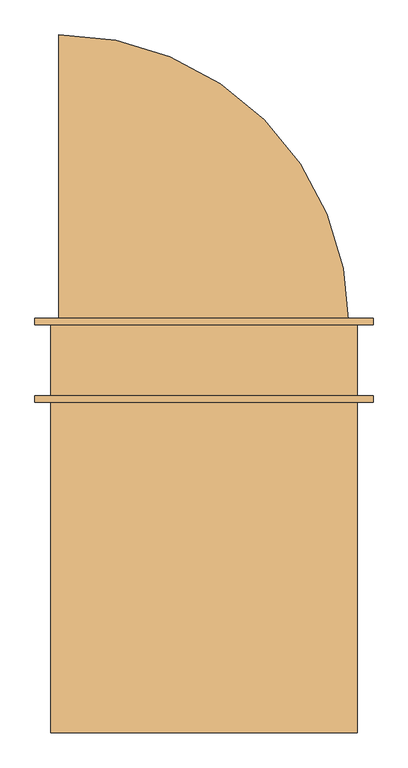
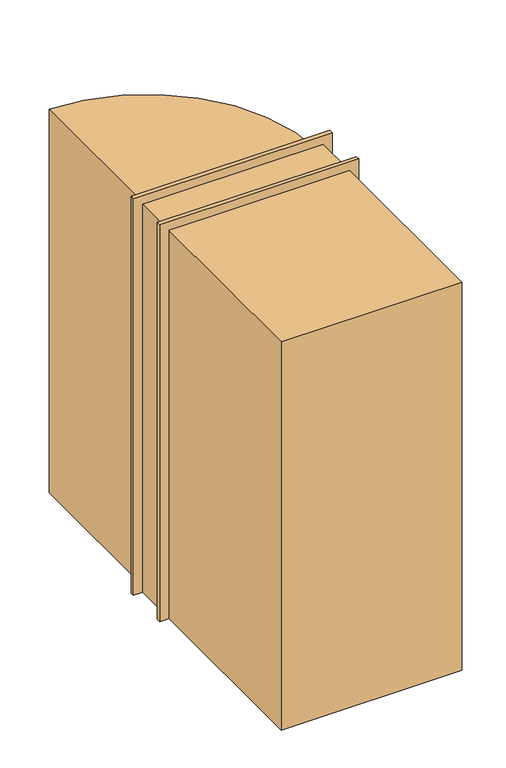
"""IFC4 building model written with IfcOpenShell, lengths in millimetres: door geometry, Дверь_Деревянная_Внутренняя_Однопольная_ГОСТ_475-2016 : 0910 х 2070(h)_Пр_с Порогом."""

from ifc_helpers import new_model, si_unit, point, frame, frame_2d, origin, origin_with_axes, place, context, project, spatial, polyline, circle_curve, trimmed, segment, composite_curve, outline, extrude, faceted_brep, source, transform, mapped, element, save
from ifc_brep_helpers import plane_surface, cylinder_surface, revolved_surface, advanced_brep


def door_42d30af5(model_context):
    return source(origin(), model_context, "Body", "SolidModel", [
        extrude(outline(composite_curve([segment(trimmed(circle_curve(frame_2d((-430.0, 101.825)), 860.0), [point((-430.0, 961.825))], [point((430.0, 101.825))], False, "CARTESIAN"), True, "CONTINUOUS"), segment(polyline([(430.0, 101.825), (-430.0, 101.825), (-430.0, 961.825)]), True, "CONTINUOUS")], self_intersect=False)), origin_with_axes(), (0.0, 0.0, 1.0), 2045.0),
        extrude(outline(polyline([(-455.0, -1108.175), (-455.0, -108.175), (455.0, -108.175), (455.0, -1108.175), (-455.0, -1108.175)])), origin_with_axes(), (0.0, 0.0, 1.0), 2070.0),
        advanced_brep(
        [(365.0, 60.825, 914.4), (375.0, 60.825, 914.4), (355.0, 60.825, 914.4), (344.5241324, 11.825, 914.4), (385.4758676, 11.825, 914.4), (365.0, 11.825, 914.4), (340.0, 13.6528681, 914.4), (390.0, 13.6528681, 914.4), (340.0, 17.1165463, 914.4), (390.0, 17.1165463, 914.4), (346.363764, 41.825, 914.4), (383.636236, 41.825, 914.4), (355.0, 41.825, 914.4), (375.0, 41.825, 914.4)],
        [
            (0, 1),
            (1, 2, circle_curve(frame((365.0, 60.825, 914.4), z_axis=(0.0, 1.0, 0.0), x_axis=(1.0, 0.0, 0.0)), 10.0)),
            (2, 0),
            (2, 1, circle_curve(frame((365.0, 60.825, 914.4), z_axis=(0.0, 1.0, 0.0), x_axis=(1.0, 0.0, 0.0)), 10.0)),
            (3, 4, circle_curve(frame((365.0, 11.825, 914.4), z_axis=(0.0, -1.0, 0.0), x_axis=(1.0, 0.0, 0.0)), 20.4758676)),
            (4, 5),
            (5, 3),
            (4, 3, circle_curve(frame((365.0, 11.825, 914.4), z_axis=(0.0, -1.0, 0.0), x_axis=(1.0, 0.0, 0.0)), 20.4758676)),
            (6, 7, circle_curve(frame((365.0, 13.6528681, 914.4), z_axis=(0.0, -1.0, 0.0), x_axis=(1.0, 0.0, 0.0)), 25.0)),
            (7, 4),
            (3, 6),
            (7, 6, circle_curve(frame((365.0, 13.6528681, 914.4), z_axis=(0.0, -1.0, 0.0), x_axis=(1.0, 0.0, 0.0)), 25.0)),
            (8, 9, circle_curve(frame((365.0, 17.1165463, 914.4), z_axis=(0.0, -1.0, 0.0), x_axis=(1.0, 0.0, 0.0)), 25.0)),
            (9, 7),
            (6, 8),
            (9, 8, circle_curve(frame((365.0, 17.1165463, 914.4), z_axis=(0.0, -1.0, 0.0), x_axis=(1.0, 0.0, 0.0)), 25.0)),
            (10, 11, circle_curve(frame((365.0, 41.825, 914.4), z_axis=(0.0, -1.0, 0.0), x_axis=(1.0, 0.0, 0.0)), 18.636236)),
            (11, 9),
            (8, 10),
            (11, 10, circle_curve(frame((365.0, 41.825, 914.4), z_axis=(0.0, -1.0, 0.0), x_axis=(1.0, 0.0, 0.0)), 18.636236)),
            (12, 13, circle_curve(frame((365.0, 41.825, 914.4), z_axis=(0.0, -1.0, 0.0), x_axis=(1.0, 0.0, 0.0)), 10.0)),
            (13, 11),
            (10, 12),
            (13, 12, circle_curve(frame((365.0, 41.825, 914.4), z_axis=(0.0, -1.0, 0.0), x_axis=(1.0, 0.0, 0.0)), 10.0)),
            (1, 13),
            (12, 2),
        ],
        [
            plane_surface(frame((365.0, 60.825, 914.4), z_axis=(0.0, 1.0, 0.0), x_axis=(1.0, 0.0, 0.0))),
            plane_surface(frame((365.0, 11.825, 914.4), z_axis=(0.0, -1.0, 0.0), x_axis=(1.0, 0.0, 0.0))),
            revolved_surface(polyline([(385.4758676, 11.825, 914.4), (390.0, 13.6528681, 914.4)]), (365.0, 60.825, 914.4), (0.0, 1.0, 0.0)),
            cylinder_surface(frame((365.0, 60.825, 914.4), z_axis=(0.0, 1.0, 0.0), x_axis=(1.0, 0.0, 0.0)), 25.0),
            revolved_surface(polyline([(390.0, 17.1165463, 914.4), (383.636236, 41.825, 914.4)]), (365.0, 60.825, 914.4), (0.0, 1.0, 0.0)),
            plane_surface(frame((365.0, 41.825, 914.4), z_axis=(0.0, 1.0, 0.0), x_axis=(1.0, 0.0, 0.0))),
            cylinder_surface(frame((365.0, 60.825, 914.4), z_axis=(0.0, 1.0, 0.0), x_axis=(1.0, 0.0, 0.0)), 10.0),
        ],
        [
            (0, [[1, 2, 3]]),
            (0, [[-3, 4, -1]]),
            (1, [[5, 6, 7]]),
            (1, [[8, -7, -6]]),
            (2, [[9, 10, -5, 11]]),
            (2, [[12, -11, -8, -10]]),
            (3, [[13, 14, -9, 15]]),
            (3, [[16, -15, -12, -14]]),
            (4, [[17, 18, -13, 19]]),
            (4, [[20, -19, -16, -18]]),
            (5, [[21, 22, -17, 23]]),
            (5, [[24, -23, -20, -22]]),
            (6, [[-2, 25, -21, 26]]),
            (6, [[-4, -26, -24, -25]]),
        ],
    ),
        extrude(outline(composite_curve([segment(trimmed(circle_curve(frame_2d((914.4, 365.0)), 30.0), [point((914.4, 395.0))], [point((914.4, 335.0))], False, "CARTESIAN"), True, "CONTINUOUS"), segment(trimmed(circle_curve(frame_2d((914.4, 365.0)), 30.0), [point((914.4, 335.0))], [point((914.4, 395.0))], False, "CARTESIAN"), True, "CONTINUOUS")], self_intersect=False)), frame((0.0, 60.825, 0.0), z_axis=(0.0, 1.0, 0.0), x_axis=(0.0, 0.0, 1.0)), (0.0, 0.0, 1.0), 6.0),
        advanced_brep(
        [(365.0, 107.825, 914.4), (355.0, 107.825, 914.4), (375.0, 107.825, 914.4), (344.5241324, 156.825, 914.4), (365.0, 156.825, 914.4), (385.4758676, 156.825, 914.4), (340.0, 154.9971319, 914.4), (390.0, 154.9971319, 914.4), (340.0, 151.5334537, 914.4), (390.0, 151.5334537, 914.4), (346.363764, 126.825, 914.4), (383.636236, 126.825, 914.4), (355.0, 126.825, 914.4), (375.0, 126.825, 914.4)],
        [
            (0, 1),
            (1, 2, circle_curve(frame((365.0, 107.825, 914.4), z_axis=(0.0, -1.0, 0.0), x_axis=(1.0, 0.0, 0.0)), 10.0)),
            (2, 0),
            (2, 1, circle_curve(frame((365.0, 107.825, 914.4), z_axis=(0.0, -1.0, 0.0), x_axis=(1.0, 0.0, 0.0)), 10.0)),
            (3, 4),
            (4, 5),
            (5, 3, circle_curve(frame((365.0, 156.825, 914.4), z_axis=(0.0, 1.0, 0.0), x_axis=(1.0, 0.0, 0.0)), 20.4758676)),
            (3, 5, circle_curve(frame((365.0, 156.825, 914.4), z_axis=(0.0, 1.0, 0.0), x_axis=(1.0, 0.0, 0.0)), 20.4758676)),
            (6, 3),
            (5, 7),
            (7, 6, circle_curve(frame((365.0, 154.9971319, 914.4), z_axis=(0.0, 1.0, 0.0), x_axis=(1.0, 0.0, 0.0)), 25.0)),
            (6, 7, circle_curve(frame((365.0, 154.9971319, 914.4), z_axis=(0.0, 1.0, 0.0), x_axis=(1.0, 0.0, 0.0)), 25.0)),
            (8, 6),
            (7, 9),
            (9, 8, circle_curve(frame((365.0, 151.5334537, 914.4), z_axis=(0.0, 1.0, 0.0), x_axis=(1.0, 0.0, 0.0)), 25.0)),
            (8, 9, circle_curve(frame((365.0, 151.5334537, 914.4), z_axis=(0.0, 1.0, 0.0), x_axis=(1.0, 0.0, 0.0)), 25.0)),
            (10, 8),
            (9, 11),
            (11, 10, circle_curve(frame((365.0, 126.825, 914.4), z_axis=(0.0, 1.0, 0.0), x_axis=(1.0, 0.0, 0.0)), 18.636236)),
            (10, 11, circle_curve(frame((365.0, 126.825, 914.4), z_axis=(0.0, 1.0, 0.0), x_axis=(1.0, 0.0, 0.0)), 18.636236)),
            (12, 10),
            (11, 13),
            (13, 12, circle_curve(frame((365.0, 126.825, 914.4), z_axis=(0.0, 1.0, 0.0), x_axis=(1.0, 0.0, 0.0)), 10.0)),
            (12, 13, circle_curve(frame((365.0, 126.825, 914.4), z_axis=(0.0, 1.0, 0.0), x_axis=(1.0, 0.0, 0.0)), 10.0)),
            (1, 12),
            (13, 2),
        ],
        [
            plane_surface(frame((365.0, 107.825, 914.4), z_axis=(0.0, -1.0, 0.0), x_axis=(1.0, 0.0, 0.0))),
            plane_surface(frame((365.0, 156.825, 914.4), z_axis=(0.0, 1.0, 0.0), x_axis=(1.0, 0.0, 0.0))),
            revolved_surface(polyline([(385.4758676, 156.825, 914.4), (390.0, 154.9971319, 914.4)]), (365.0, 107.825, 914.4), (0.0, -1.0, 0.0)),
            cylinder_surface(frame((365.0, 107.825, 914.4), z_axis=(0.0, -1.0, 0.0), x_axis=(1.0, 0.0, 0.0)), 25.0),
            revolved_surface(polyline([(390.0, 151.5334537, 914.4), (383.636236, 126.825, 914.4)]), (365.0, 107.825, 914.4), (0.0, -1.0, 0.0)),
            plane_surface(frame((365.0, 126.825, 914.4), z_axis=(0.0, -1.0, 0.0), x_axis=(1.0, 0.0, 0.0))),
            cylinder_surface(frame((365.0, 107.825, 914.4), z_axis=(0.0, -1.0, 0.0), x_axis=(1.0, 0.0, 0.0)), 10.0),
        ],
        [
            (0, [[1, 2, 3]]),
            (0, [[-3, 4, -1]]),
            (1, [[5, 6, 7]]),
            (1, [[-6, -5, 8]]),
            (2, [[9, -7, 10, 11]]),
            (2, [[-10, -8, -9, 12]]),
            (3, [[13, -11, 14, 15]]),
            (3, [[-14, -12, -13, 16]]),
            (4, [[17, -15, 18, 19]]),
            (4, [[-18, -16, -17, 20]]),
            (5, [[21, -19, 22, 23]]),
            (5, [[-22, -20, -21, 24]]),
            (6, [[25, -23, 26, -2]]),
            (6, [[-26, -24, -25, -4]]),
        ],
    ),
        extrude(outline(composite_curve([segment(trimmed(circle_curve(frame_2d((914.4, 365.0)), 30.0), [point((914.4, 395.0))], [point((914.4, 335.0))], False, "CARTESIAN"), True, "CONTINUOUS"), segment(trimmed(circle_curve(frame_2d((914.4, 365.0)), 30.0), [point((914.4, 335.0))], [point((914.4, 395.0))], False, "CARTESIAN"), True, "CONTINUOUS")], self_intersect=False)), frame((0.0, 101.825, 0.0), z_axis=(0.0, 1.0, 0.0), x_axis=(0.0, 0.0, 1.0)), (0.0, 0.0, 1.0), 6.0),
        extrude(outline(polyline([(310.0, 78.4916667), (-310.0, 78.4916667), (-310.0, 90.1583333), (310.0, 90.1583333), (310.0, 78.4916667)])), frame((0.0, 0.0, 230.0), z_axis=(0.0, 0.0, 1.0), x_axis=(1.0, 0.0, 0.0)), (0.0, 0.0, 1.0), 1695.0),
        extrude(outline(polyline([(2045.0, -430.0), (25.0, -430.0), (25.0, 430.0), (2045.0, 430.0), (2045.0, -430.0)]), holes=[polyline([(1925.0, -310.0), (1925.0, 310.0), (230.0, 310.0), (230.0, -310.0), (1925.0, -310.0)])]), frame((0.0, 66.825, 0.0), z_axis=(0.0, 1.0, 0.0), x_axis=(0.0, 0.0, 1.0)), (0.0, 0.0, 1.0), 35.0),
        faceted_brep([(455.0, 101.825, 0.0), (455.0, -108.175, 0.0), (430.0, -108.175, 0.0), (430.0, 31.9, 0.0), (417.3, 31.9, 0.0), (417.3, 66.825, 0.0), (430.0, 66.825, 0.0), (430.0, 101.825, 0.0), (455.0, 101.825, 2070.0), (455.0, -108.175, 2070.0), (-455.0, -108.175, 2070.0), (-455.0, -108.175, 0.0), (-430.0, -108.175, 0.0), (-430.0, -108.175, 2045.0), (430.0, -108.175, 2045.0), (430.0, 31.9, 2045.0), (-430.0, 31.9, 2045.0), (-430.0, 31.9, 0.0), (-417.3, 31.9, 0.0), (-417.3, 31.9, 2032.3), (417.3, 31.9, 2032.3), (417.3, 66.825, 2032.3), (-417.3, 66.825, 2032.3), (-417.3, 66.825, 0.0), (-430.0, 66.825, 0.0), (-430.0, 66.825, 2045.0), (430.0, 66.825, 2045.0), (430.0, 101.825, 2045.0), (-430.0, 101.825, 2045.0), (-430.0, 101.825, 0.0), (-455.0, 101.825, 0.0), (-455.0, 101.825, 2070.0)], [[[0, 1, 2, 3, 4, 5, 6, 7]], [[1, 0, 8, 9]], [[2, 1, 9, 10, 11, 12, 13, 14]], [[3, 2, 14, 15]], [[4, 3, 15, 16, 17, 18, 19, 20]], [[5, 4, 20, 21]], [[6, 5, 21, 22, 23, 24, 25, 26]], [[7, 6, 26, 27]], [[0, 7, 27, 28, 29, 30, 31, 8]], [[9, 8, 31, 10]], [[15, 14, 13, 16]], [[21, 20, 19, 22]], [[27, 26, 25, 28]], [[30, 29, 24, 23, 18, 17, 12, 11]], [[10, 31, 30, 11]], [[16, 13, 12, 17]], [[22, 19, 18, 23]], [[28, 25, 24, 29]]]),
        extrude(outline(polyline([(0.0, 436.35), (0.0, 501.35), (2116.35, 501.35), (2116.35, -501.35), (0.0, -501.35), (0.0, -436.35), (2051.35, -436.35), (2051.35, 436.35), (0.0, 436.35)])), frame((0.0, -128.175, 0.0), z_axis=(0.0, 1.0, 0.0), x_axis=(0.0, 0.0, 1.0)), (0.0, 0.0, 1.0), 20.0),
        extrude(outline(polyline([(0.0, 436.35), (0.0, 501.35), (2116.35, 501.35), (2116.35, -501.35), (0.0, -501.35), (0.0, -436.35), (2051.35, -436.35), (2051.35, 436.35), (0.0, 436.35)])), frame((0.0, 101.825, 0.0), z_axis=(0.0, 1.0, 0.0), x_axis=(0.0, 0.0, 1.0)), (0.0, 0.0, 1.0), 20.0),
        extrude(outline(polyline([(430.0, 101.825), (430.0, 66.825), (-430.0, 66.825), (-430.0, 101.825), (430.0, 101.825)])), origin_with_axes(), (0.0, 0.0, 1.0), 25.0),
    ])


if __name__ == "__main__":
    model = new_model("IFC4")
    model_context = context("Model", 3, world=origin())
    ifc_project = project(units=[si_unit("LENGTHUNIT", "METRE", prefix="MILLI")], contexts=[model_context])
    site = spatial("IfcSite", under=ifc_project)
    building = spatial("IfcBuilding", under=site)
    placement = place(None, origin())
    door_shape = door_42d30af5(model_context)
    element("IfcDoor", 1, ObjectType="Дверь_Деревянная_Внутренняя_Однопольная_ГОСТ_475-2016 : 0910 х 2070(h)_Пр_с Порогом", at=placement, inside=building, context=model_context, shape_type="MappedRepresentation", body=[
        mapped(door_shape, transform((0.0, 0.0, 0.0), x_axis=(1.0, 0.0, 0.0), y_axis=(0.0, 1.0, 0.0), z_axis=(0.0, 0.0, 1.0))),
    ])
    save(model, "model.ifc")
